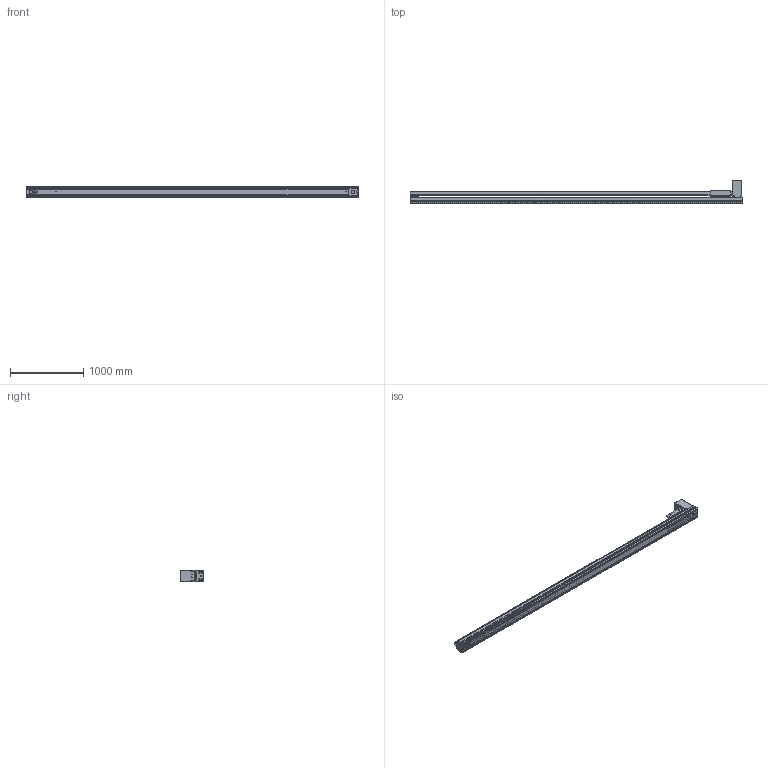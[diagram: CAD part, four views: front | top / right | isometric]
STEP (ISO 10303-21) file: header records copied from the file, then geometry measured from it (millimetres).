
FILE_DESCRIPTION((''),'2;1');
FILE_NAME('BE50G-BT-L19N-W95_IGS_PRT','2017-06-18T',(' '),(''),'PRO/ENGINEER BY PARAMETRIC TECHNOLOGY CORPORATION, 2015030','PRO/ENGINEER BY PARAMETRIC TECHNOLOGY CORPORATION, 2015030','');
FILE_SCHEMA(('CONFIG_CONTROL_DESIGN'));
Products named in the file (1): BE50G-BT-L19N-W95_IGS_PRT
Bounding box: 4520 x 309 x 160 mm (x, y, z)
Volume: 18156762 mm3; surface area: 8889220.2 mm2
Topology: 10 solids, 387 shells, 2379 faces, 7307 edges, 5008 vertices
Faces by surface type: cylinder 1413, plane 699, cone 224, sphere 23, torus 20
Entity records: 86102 total; most frequent: CARTESIAN_POINT 19876, DIRECTION 13892, ORIENTED_EDGE 13226, EDGE_CURVE 7233, AXIS2_PLACEMENT_3D 5326, VERTEX_POINT 5008, VECTOR 3240, LINE 3240
